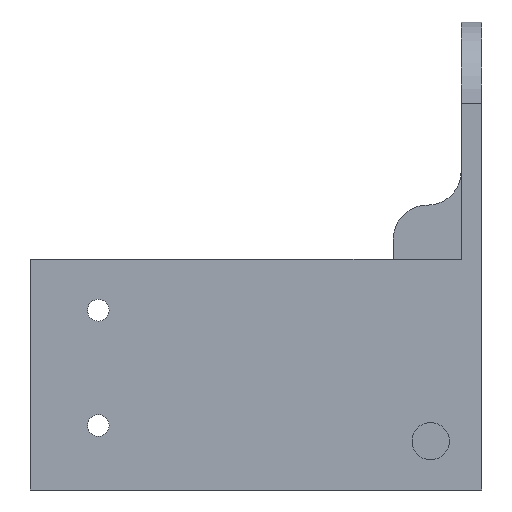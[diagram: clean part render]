
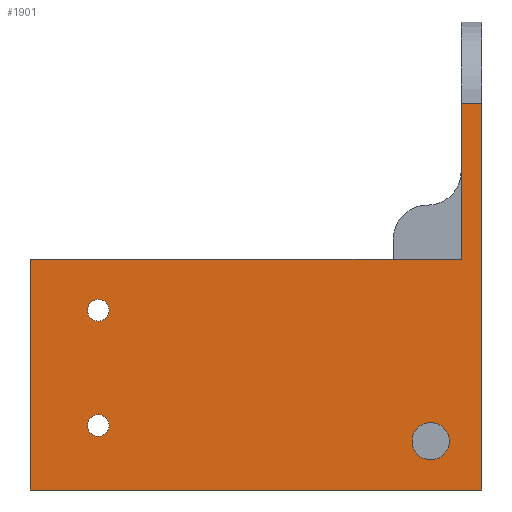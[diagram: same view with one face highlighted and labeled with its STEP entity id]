
A CAD part, left-side view. The second image highlights one B-rep face of the part: STEP entity #1901.
In plain terms, the highlighted planar face has unit normal (-1, 0, 0).
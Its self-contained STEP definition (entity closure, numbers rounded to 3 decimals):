
#27 = EDGE_CURVE ( 'NONE', #656, #1274, #2459, .T. ) ;
#82 = VERTEX_POINT ( 'NONE', #2676 ) ;
#104 = FACE_BOUND ( 'NONE', #592, .T. ) ;
#105 = CARTESIAN_POINT ( 'NONE',  ( -69.5, -66.5, 2. ) ) ;
#108 = CIRCLE ( 'NONE', #2497, 1.6 ) ;
#200 = VERTEX_POINT ( 'NONE', #792 ) ;
#203 = VECTOR ( 'NONE', #409, 1000. ) ;
#237 = VECTOR ( 'NONE', #1457, 1000. ) ;
#337 = DIRECTION ( 'NONE',  ( 0., 0., -1. ) ) ;
#339 = VECTOR ( 'NONE', #2261, 1000. ) ;
#359 = DIRECTION ( 'NONE',  ( 0., 0., 1. ) ) ;
#366 = DIRECTION ( 'NONE',  ( -1., 0., 0. ) ) ;
#384 = VECTOR ( 'NONE', #1165, 1000. ) ;
#409 = DIRECTION ( 'NONE',  ( 0., 1., 0. ) ) ;
#423 = CARTESIAN_POINT ( 'NONE',  ( -69.5, -66.5, 57. ) ) ;
#454 = FACE_BOUND ( 'NONE', #2552, .T. ) ;
#541 = DIRECTION ( 'NONE',  ( 0., -1., 0. ) ) ;
#592 = EDGE_LOOP ( 'NONE', ( #1128, #2050 ) ) ;
#622 = DIRECTION ( 'NONE',  ( 0., 1., 0. ) ) ;
#655 = ORIENTED_EDGE ( 'NONE', *, *, #1732, .F. ) ;
#656 = VERTEX_POINT ( 'NONE', #2448 ) ;
#733 = CIRCLE ( 'NONE', #2354, 1.6 ) ;
#750 = CARTESIAN_POINT ( 'NONE',  ( -69.5, -13., 9.5 ) ) ;
#781 = ORIENTED_EDGE ( 'NONE', *, *, #973, .F. ) ;
#792 = CARTESIAN_POINT ( 'NONE',  ( -69.5, -3., 34. ) ) ;
#808 = CARTESIAN_POINT ( 'NONE',  ( -69.5, -13., 28.1 ) ) ;
#906 = DIRECTION ( 'NONE',  ( -1., 0., 0. ) ) ;
#950 = EDGE_CURVE ( 'NONE', #2754, #2328, #733, .T. ) ;
#973 = EDGE_CURVE ( 'NONE', #2328, #2754, #108, .T. ) ;
#978 = CARTESIAN_POINT ( 'NONE',  ( -69.5, -13., 11.1 ) ) ;
#990 = CARTESIAN_POINT ( 'NONE',  ( -69.5, -13., 24.9 ) ) ;
#1077 = AXIS2_PLACEMENT_3D ( 'NONE', #1626, #2696, #1422 ) ;
#1106 = EDGE_CURVE ( 'NONE', #82, #1482, #2367, .T. ) ;
#1117 = CARTESIAN_POINT ( 'NONE',  ( -69.5, -69.5, 2. ) ) ;
#1127 = AXIS2_PLACEMENT_3D ( 'NONE', #1837, #366, #2734 ) ;
#1128 = ORIENTED_EDGE ( 'NONE', *, *, #1106, .F. ) ;
#1135 = EDGE_CURVE ( 'NONE', #2500, #1399, #2300, .T. ) ;
#1146 = DIRECTION ( 'NONE',  ( 0., 0., 1. ) ) ;
#1165 = DIRECTION ( 'NONE',  ( 0., 0., -1. ) ) ;
#1183 = LINE ( 'NONE', #1117, #1573 ) ;
#1204 = CARTESIAN_POINT ( 'NONE',  ( -69.5, -3., 2. ) ) ;
#1220 = CARTESIAN_POINT ( 'NONE',  ( -69.5, 69.5, 34. ) ) ;
#1240 = EDGE_CURVE ( 'NONE', #200, #1399, #2162, .T. ) ;
#1274 = VERTEX_POINT ( 'NONE', #2316 ) ;
#1278 = DIRECTION ( 'NONE',  ( 1., 0., 0. ) ) ;
#1280 = ORIENTED_EDGE ( 'NONE', *, *, #2294, .T. ) ;
#1297 = CIRCLE ( 'NONE', #1127, 2.75 ) ;
#1301 = CIRCLE ( 'NONE', #2043, 1.6 ) ;
#1337 = CARTESIAN_POINT ( 'NONE',  ( -69.5, -66.5, 34. ) ) ;
#1377 = DIRECTION ( 'NONE',  ( 0., 0., 1. ) ) ;
#1399 = VERTEX_POINT ( 'NONE', #1337 ) ;
#1410 = ORIENTED_EDGE ( 'NONE', *, *, #950, .F. ) ;
#1422 = DIRECTION ( 'NONE',  ( 0., 1., 0. ) ) ;
#1457 = DIRECTION ( 'NONE',  ( 0., -1., 0. ) ) ;
#1475 = CARTESIAN_POINT ( 'NONE',  ( -69.5, -69.5, 57. ) ) ;
#1482 = VERTEX_POINT ( 'NONE', #978 ) ;
#1513 = FACE_BOUND ( 'NONE', #1612, .T. ) ;
#1527 = VERTEX_POINT ( 'NONE', #1723 ) ;
#1539 = FACE_OUTER_BOUND ( 'NONE', #1563, .T. ) ;
#1561 = DIRECTION ( 'NONE',  ( -1., 0., 0. ) ) ;
#1563 = EDGE_LOOP ( 'NONE', ( #2154, #1280, #1931, #1847, #1972, #2323 ) ) ;
#1573 = VECTOR ( 'NONE', #337, 1000. ) ;
#1612 = EDGE_LOOP ( 'NONE', ( #781, #1410 ) ) ;
#1616 = CARTESIAN_POINT ( 'NONE',  ( -69.5, 69.5, 0. ) ) ;
#1617 = VERTEX_POINT ( 'NONE', #1757 ) ;
#1623 = CARTESIAN_POINT ( 'NONE',  ( -69.5, -13., 9.5 ) ) ;
#1626 = CARTESIAN_POINT ( 'NONE',  ( -69.5, -62., 7.196 ) ) ;
#1666 = EDGE_CURVE ( 'NONE', #1482, #82, #1301, .T. ) ;
#1702 = PLANE ( 'NONE',  #1884 ) ;
#1723 = CARTESIAN_POINT ( 'NONE',  ( -69.5, -3., 0. ) ) ;
#1732 = EDGE_CURVE ( 'NONE', #1274, #656, #1297, .T. ) ;
#1757 = CARTESIAN_POINT ( 'NONE',  ( -69.5, -69.5, 0. ) ) ;
#1826 = LINE ( 'NONE', #1204, #339 ) ;
#1837 = CARTESIAN_POINT ( 'NONE',  ( -69.5, -62., 7.196 ) ) ;
#1847 = ORIENTED_EDGE ( 'NONE', *, *, #2118, .F. ) ;
#1866 = CARTESIAN_POINT ( 'NONE',  ( -69.5, -66.5, 57. ) ) ;
#1880 = ORIENTED_EDGE ( 'NONE', *, *, #27, .F. ) ;
#1884 = AXIS2_PLACEMENT_3D ( 'NONE', #2346, #1278, #622 ) ;
#1901 = ADVANCED_FACE ( 'NONE', ( #454, #1513, #104, #1539 ), #1702, .F. ) ;
#1909 = VERTEX_POINT ( 'NONE', #1475 ) ;
#1931 = ORIENTED_EDGE ( 'NONE', *, *, #2117, .T. ) ;
#1948 = AXIS2_PLACEMENT_3D ( 'NONE', #750, #2248, #359 ) ;
#1970 = CARTESIAN_POINT ( 'NONE',  ( -69.5, -13., 26.5 ) ) ;
#1972 = ORIENTED_EDGE ( 'NONE', *, *, #2435, .T. ) ;
#1977 = DIRECTION ( 'NONE',  ( 0., 0., 1. ) ) ;
#2043 = AXIS2_PLACEMENT_3D ( 'NONE', #1623, #2462, #1377 ) ;
#2050 = ORIENTED_EDGE ( 'NONE', *, *, #1666, .F. ) ;
#2053 = LINE ( 'NONE', #423, #203 ) ;
#2117 = EDGE_CURVE ( 'NONE', #1527, #1617, #2499, .T. ) ;
#2118 = EDGE_CURVE ( 'NONE', #1909, #1617, #1183, .T. ) ;
#2154 = ORIENTED_EDGE ( 'NONE', *, *, #1240, .F. ) ;
#2162 = LINE ( 'NONE', #1220, #237 ) ;
#2218 = CARTESIAN_POINT ( 'NONE',  ( -69.5, -13., 26.5 ) ) ;
#2248 = DIRECTION ( 'NONE',  ( -1., 0., 0. ) ) ;
#2261 = DIRECTION ( 'NONE',  ( 0., 0., -1. ) ) ;
#2294 = EDGE_CURVE ( 'NONE', #200, #1527, #1826, .T. ) ;
#2300 = LINE ( 'NONE', #105, #384 ) ;
#2316 = CARTESIAN_POINT ( 'NONE',  ( -69.5, -62., 9.946 ) ) ;
#2323 = ORIENTED_EDGE ( 'NONE', *, *, #1135, .T. ) ;
#2328 = VERTEX_POINT ( 'NONE', #990 ) ;
#2346 = CARTESIAN_POINT ( 'NONE',  ( -69.5, 69.5, 2. ) ) ;
#2354 = AXIS2_PLACEMENT_3D ( 'NONE', #1970, #1561, #1146 ) ;
#2367 = CIRCLE ( 'NONE', #1948, 1.6 ) ;
#2397 = VECTOR ( 'NONE', #541, 1000. ) ;
#2435 = EDGE_CURVE ( 'NONE', #1909, #2500, #2053, .T. ) ;
#2448 = CARTESIAN_POINT ( 'NONE',  ( -69.5, -62., 4.446 ) ) ;
#2459 = CIRCLE ( 'NONE', #1077, 2.75 ) ;
#2462 = DIRECTION ( 'NONE',  ( -1., 0., 0. ) ) ;
#2497 = AXIS2_PLACEMENT_3D ( 'NONE', #2218, #906, #1977 ) ;
#2499 = LINE ( 'NONE', #1616, #2397 ) ;
#2500 = VERTEX_POINT ( 'NONE', #1866 ) ;
#2552 = EDGE_LOOP ( 'NONE', ( #1880, #655 ) ) ;
#2676 = CARTESIAN_POINT ( 'NONE',  ( -69.5, -13., 7.9 ) ) ;
#2696 = DIRECTION ( 'NONE',  ( -1., 0., 0. ) ) ;
#2734 = DIRECTION ( 'NONE',  ( 0., 1., 0. ) ) ;
#2754 = VERTEX_POINT ( 'NONE', #808 ) ;
